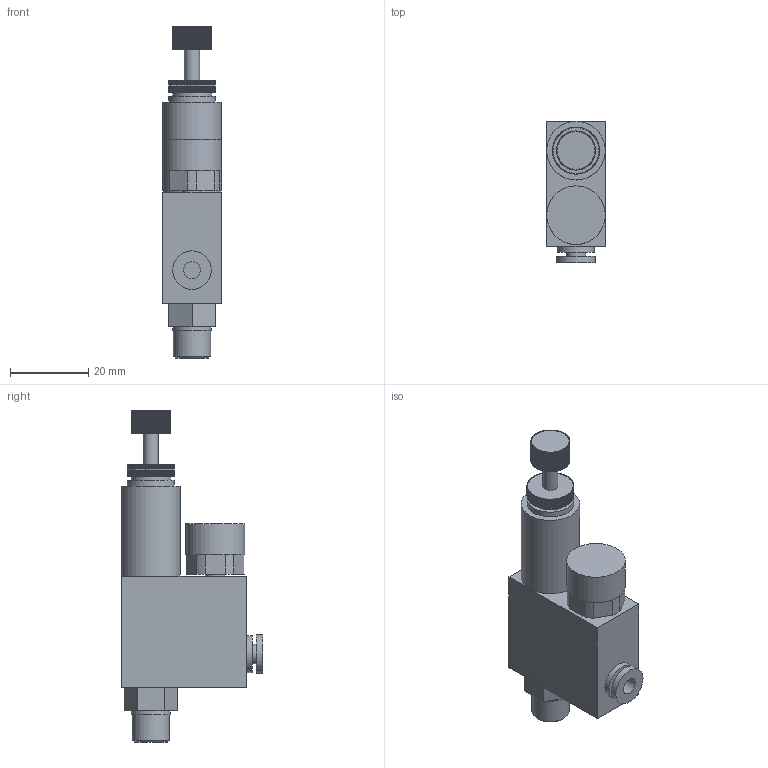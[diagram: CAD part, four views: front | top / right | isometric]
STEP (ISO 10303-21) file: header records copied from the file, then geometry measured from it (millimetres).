
FILE_DESCRIPTION((''),'2;1');
FILE_NAME('F:\AirCom-Produktdokumentation\Druckregler\RV\CAD\CAD AirCom\3D\RVCM4-01.stp','2009-06-03T08:19:37',('Frank Schroers'),(''),'Autodesk Inventor 2008','Autodesk Inventor 2008','');
FILE_SCHEMA(('AUTOMOTIVE_DESIGN { 1 0 10303 214 1 1 1 1 }'));
Length unit declared in the file: millimetre
Products named in the file (1): RVCM4-01
Bounding box: 15 x 36.1 x 85 mm (x, y, z)
Volume: 22324.2 mm3; surface area: 7512.1 mm2
Topology: 1 solids, 1 shells, 600 faces, 1740 edges, 1158 vertices
Faces by surface type: plane 398, cylinder 200, cone 2
Full cylindrical faces by diameter (mm): 3.89 x1, 3.98 x1, 4.3 x1, 5 x2, 9.5 x1, 9.58 x1, 9.85 x1, 9.9 x2, 12 x1, 15 x2
Entity records: 19759 total; most frequent: CARTESIAN_POINT 3484, ORIENTED_EDGE 3450, DIRECTION 3331, EDGE_CURVE 1725, VECTOR 1321, LINE 1321, VERTEX_POINT 1158, AXIS2_PLACEMENT_3D 1005
